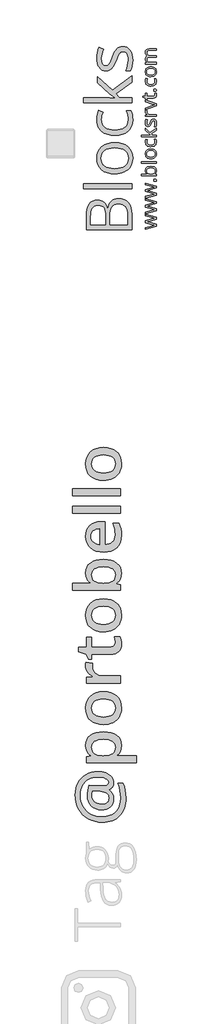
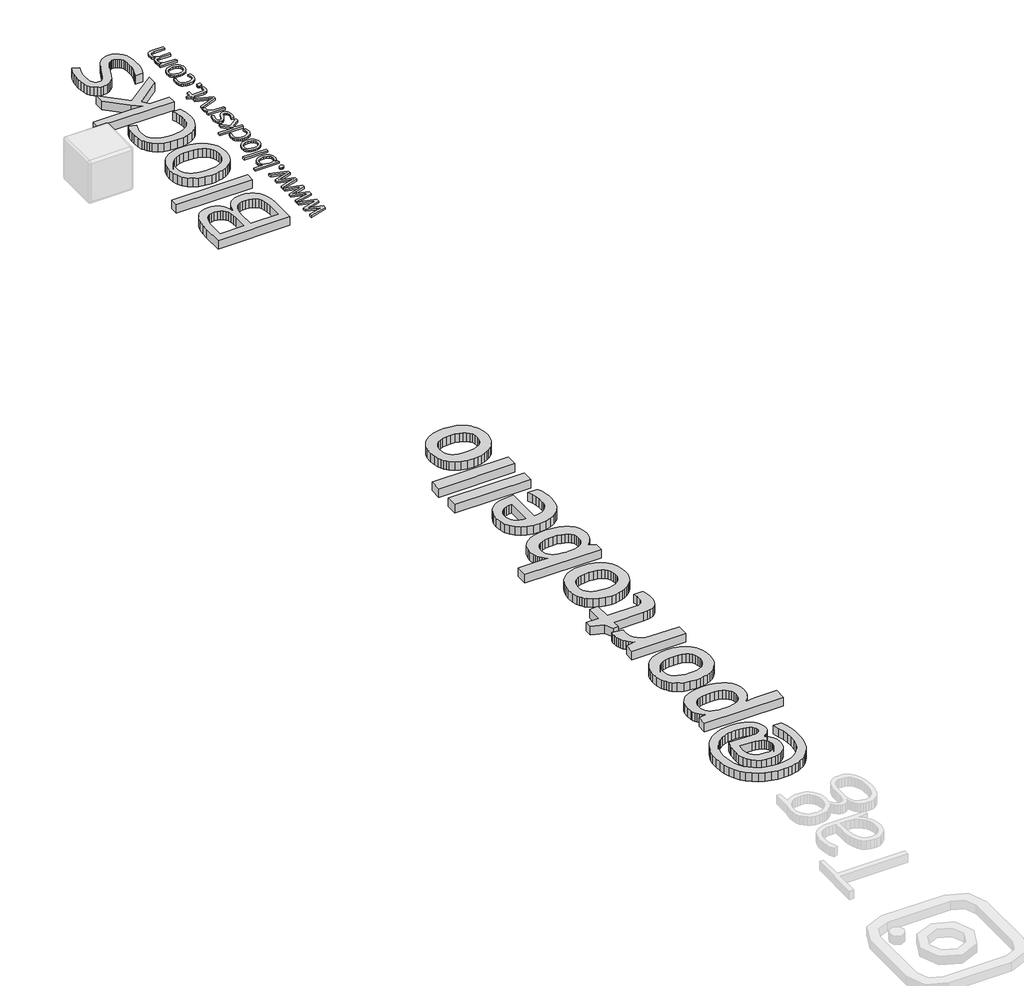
# One storey, part 6 of 6: 3 proxies.
"""IFC4 building model written with IfcOpenShell, lengths in millimetres."""

from ifc_helpers import new_model, si_unit, origin, origin_with_axes, place, context, project, spatial, polyline, outline, extrude, element, save

model = new_model("IFC4")

# Units and contexts
model_context = context("Model", 3, world=origin())
ifc_project = project(units=[si_unit("LENGTHUNIT", "METRE", prefix="MILLI")], contexts=[model_context])

# Site, building, storey
site = spatial("IfcSite", under=ifc_project)
building = spatial("IfcBuilding", under=site)
storey = spatial("IfcBuildingStorey", under=building, Name="PORTOBELLO - SHOWROOM", Elevation=0.0)

# Proxies
placement = place(None, origin())
element("IfcBuildingElementProxy", 1, Name="25mm OpenSans", ObjectType="25mm OpenSans", at=placement, inside=storey, context=model_context, shape_type="SweptSolid", body=[
    extrude(outline(polyline([(251598.8746158, 361.9602187), (251489.0629725, 327.4801123), (251443.339353, 315.2621615), (251489.4377562, 301.8449027), (251598.8746158, 266.3154017), (251598.8746158, 233.4093871), (251411.78256, 182.0640112), (251411.78256, 211.8967989), (251519.1206305, 239.6307976), (251568.8169578, 250.5744836), (251543.6314887, 257.9952021), (251519.1206305, 265.3409639), (251411.78256, 299.8210704), (251411.78256, 330.7032527), (251519.1955872, 364.3588348), (251568.5171308, 377.4013099), (251549.5530722, 382.4983691), (251411.78256, 418.2527403), (251411.78256, 447.785701), (251598.8746158, 395.7657144), (251598.8746158, 361.9602187)])), origin_with_axes(), (0.0, 0.0, 1.0), 20.0),
    extrude(outline(polyline([(251598.8746158, 635.4024541), (251489.0629725, 600.9223477), (251443.339353, 588.7043969), (251489.4377562, 575.2871381), (251598.8746158, 539.7576371), (251598.8746158, 506.8516225), (251411.78256, 455.5062466), (251411.78256, 485.3390344), (251519.1206305, 513.073033), (251568.8169578, 524.016719), (251543.6314887, 531.4374375), (251519.1206305, 538.7831994), (251411.78256, 573.2633058), (251411.78256, 604.1454881), (251519.1955872, 637.8010702), (251568.5171308, 650.8435453), (251549.5530722, 655.9406045), (251411.78256, 691.6949757), (251411.78256, 721.2279365), (251598.8746158, 669.2079498), (251598.8746158, 635.4024541)])), origin_with_axes(), (0.0, 0.0, 1.0), 20.0),
    extrude(outline(polyline([(251598.8746158, 908.8446896), (251489.0629725, 874.3645831), (251443.339353, 862.1466324), (251489.4377562, 848.7293735), (251598.8746158, 813.1998726), (251598.8746158, 780.2938579), (251411.78256, 728.948482), (251411.78256, 758.7812698), (251519.1206305, 786.5152684), (251568.8169578, 797.4589544), (251543.6314887, 804.879673), (251519.1206305, 812.2254348), (251411.78256, 846.7055412), (251411.78256, 877.5877235), (251519.1955872, 911.2433057), (251568.5171308, 924.2857807), (251549.5530722, 929.3828399), (251411.78256, 965.1372112), (251411.78256, 994.6701719), (251598.8746158, 942.6501852), (251598.8746158, 908.8446896)])), origin_with_axes(), (0.0, 0.0, 1.0), 20.0),
    extrude(outline(polyline([(251579.7606437, 1023.8283489), (251569.3510247, 1025.1307224), (251561.8085014, 1029.0378432), (251557.2267698, 1035.3810584), (251555.699526, 1043.9917155), (251557.2267698, 1052.8553515), (251561.8085014, 1059.5077634), (251569.3510247, 1063.6678632), (251579.7606437, 1065.0545631), (251589.9641318, 1063.6397544), (251597.4879159, 1059.3953282), (251602.125865, 1052.7148076), (251603.671848, 1043.9917155), (251598.0875699, 1029.5625405), (251590.7136993, 1025.2618968), (251579.7606437, 1023.8283489)])), origin_with_axes(), (0.0, 0.0, 1.0), 20.0),
    extrude(outline(polyline([(251406.9853278, 1212.1946695), (251408.585186, 1229.7790553), (251413.3847606, 1245.2787064), (251421.3840516, 1258.6936228), (251432.583059, 1270.0238045), (251446.7053797, 1279.0256421), (251463.4746109, 1285.4555261), (251504.9538041, 1290.5994333), (251546.5735413, 1285.4086781), (251563.4622347, 1278.9202342), (251577.7368114, 1269.8364126), (251589.0833899, 1258.4523558), (251597.1880889, 1245.0632057), (251602.0509082, 1229.6689626), (251603.671848, 1212.2696262), (251601.9572123, 1194.6266805), (251596.8133051, 1178.5765657), (251588.1089521, 1164.5690225), (251575.7129791, 1153.0537913), (251575.7129791, 1150.9550022), (251598.8746158, 1144.9584619), (251598.8746158, 1124.6451818), (251335.0268448, 1124.6451818), (251335.0268448, 1152.9788345), (251397.6157336, 1152.9788345), (251435.3939372, 1151.629613), (251422.9651706, 1164.1848691), (251414.0874801, 1177.7895198), (251408.7608659, 1193.7927866), (251406.9853278, 1212.1946695)]), holes=[polyline([(251430.9714888, 1208.2219616), (251435.2065453, 1182.9521662), (251447.911715, 1165.9088744), (251470.6423504, 1156.2113445), (251504.9538041, 1152.9788345), (251539.4058018, 1156.3050404), (251562.4081554, 1166.2836582), (251575.3663041, 1183.5892986), (251579.685687, 1208.8965723), (251574.8416068, 1231.9738827), (251560.3093663, 1248.2863461), (251536.7073587, 1257.983876), (251504.6539771, 1261.216386), (251472.2070726, 1257.983876), (251449.2234582, 1248.2863461), (251435.5344811, 1231.80523), (251430.9714888, 1208.2219616)])]), origin_with_axes(), (0.0, 0.0, 1.0), 20.0),
    extrude(outline(polyline([(251598.8746158, 1367.8798457), (251598.8746158, 1339.5461931), (251335.0268448, 1339.5461931), (251335.0268448, 1367.8798457), (251598.8746158, 1367.8798457)])), origin_with_axes(), (0.0, 0.0, 1.0), 20.0),
    extrude(outline(polyline([(251505.1786744, 1592.8250619), (251527.1058671, 1591.3844868), (251546.489215, 1587.0627615), (251563.328718, 1579.859886), (251577.6243763, 1569.7758603), (251589.0201452, 1557.1573594), (251597.1599801, 1542.3510582), (251602.043881, 1525.3569569), (251603.671848, 1506.1750553), (251600.6829475, 1482.4793517), (251591.7162459, 1461.6132655), (251577.1652662, 1444.3825819), (251557.4235313, 1431.5930859), (251533.1937609, 1423.6664093), (251505.1786744, 1421.0241837), (251483.2608513, 1422.4530468), (251463.9056122, 1426.7396361), (251447.1129571, 1433.8839517), (251432.882886, 1443.8859934), (251421.5527043, 1456.4271952), (251413.4597173, 1471.1889907), (251408.6039252, 1488.1713801), (251406.9853278, 1507.3743633), (251408.6414035, 1525.9706653), (251413.6096308, 1542.5571893), (251421.8900097, 1557.1339354), (251433.48254, 1569.7009035), (251447.900003, 1579.8177228), (251464.6551797, 1587.0440223), (251483.7480702, 1591.379802), (251505.1786744, 1592.8250619)]), holes=[polyline([(251504.9538041, 1450.4821877), (251537.1102512, 1454.0613726), (251560.5717149, 1464.7989275), (251574.907194, 1482.4699821), (251579.685687, 1506.849666), (251574.9259332, 1531.2480892), (251560.6466717, 1548.9753613), (251537.2039472, 1559.7691337), (251504.9538041, 1563.3670579), (251473.0315969, 1559.7691337), (251449.8231122, 1548.9753613), (251435.6843946, 1531.1543932), (251430.9714888, 1506.4748823), (251435.6188075, 1482.1420463), (251449.5607636, 1464.6115356), (251472.7036611, 1454.0145247), (251504.9538041, 1450.4821877)])]), origin_with_axes(), (0.0, 0.0, 1.0), 20.0),
    extrude(outline(polyline([(251603.671848, 1718.2277099), (251602.0860442, 1698.8841828), (251597.3286328, 1681.8549454), (251589.3996137, 1667.1399978), (251578.2989871, 1654.73934), (251564.298471, 1644.9012661), (251547.6697838, 1637.8740705), (251506.5278959, 1632.252314), (251484.0806908, 1633.6788347), (251464.3366135, 1637.9583969), (251447.2956642, 1645.0910004), (251432.9578427, 1655.0766454), (251421.5948674, 1667.6998311), (251413.4784565, 1682.7450569), (251408.60861, 1700.2123227), (251406.9853278, 1720.1016287), (251409.7587276, 1747.3484085), (251416.2799652, 1768.6736047), (251439.7414289, 1759.9036646), (251433.48254, 1739.1781224), (251430.9714888, 1719.3520612), (251435.6609706, 1694.1337985), (251449.7294163, 1676.1207538), (251473.1768256, 1665.312927), (251506.0031987, 1661.710318), (251537.4662958, 1665.2239158), (251560.6466717, 1675.7647092), (251574.9259332, 1693.2015239), (251579.685687, 1717.4031856), (251577.1558966, 1741.3706074), (251569.5665253, 1765.9002049), (251594.2272971, 1765.9002049), (251601.3107103, 1744.5000518), (251603.671848, 1718.2277099)])), origin_with_axes(), (0.0, 0.0, 1.0), 20.0),
    extrude(outline(polyline([(251505.0287609, 1837.4839041), (251477.1448487, 1860.3457138), (251411.78256, 1920.3111163), (251411.78256, 1953.6668715), (251491.5365453, 1878.4102913), (251598.8746158, 1958.9138442), (251598.8746158, 1924.8085215), (251512.5244362, 1859.2213625), (251530.5140569, 1838.2334716), (251598.8746158, 1838.2334716), (251598.8746158, 1810.199646), (251335.0268448, 1810.199646), (251335.0268448, 1838.2334716), (251476.0204974, 1838.2334716), (251505.0287609, 1837.4839041)])), origin_with_axes(), (0.0, 0.0, 1.0), 20.0),
    extrude(outline(polyline([(251548.4287209, 2119.1713824), (251571.9182935, 2114.2710846), (251589.3176298, 2099.5701914), (251600.0832934, 2076.0244013), (251603.671848, 2044.589413), (251600.7110562, 2011.2898754), (251591.828681, 1986.1981023), (251565.2939904, 1986.1981023), (251575.8254142, 2015.3562793), (251579.685687, 2045.3389805), (251577.9054641, 2065.1556721), (251572.5647954, 2079.7816086), (251563.5699851, 2088.8045278), (251550.827337, 2091.8121675), (251540.5395227, 2089.422921), (251531.8632785, 2082.2551815), (251513.2740037, 2045.0391535), (251496.0339505, 2007.6357337), (251479.3560729, 1991.1077696), (251456.9814821, 1985.673405), (251436.2559399, 1990.3582021), (251420.4025866, 2004.4125933), (251410.3396425, 2026.6372706), (251406.9853278, 2055.832926), (251410.096033, 2085.8718448), (251419.4281488, 2115.2736312), (251442.5897855, 2105.0795128), (251433.876063, 2078.0201249), (251430.9714888, 2053.6591801), (251432.5736894, 2035.8382121), (251437.3802912, 2023.0018681), (251445.0165104, 2015.2438442), (251455.1075633, 2012.6578362), (251468.11256, 2016.518109), (251478.3066784, 2028.9984084), (251492.3610696, 2062.0543365), (251504.6914555, 2090.1350101), (251517.0967981, 2107.3656937), (251531.1511893, 2116.2199602), (251548.4287209, 2119.1713824)])), origin_with_axes(), (0.0, 0.0, 1.0), 20.0),
    extrude(outline(polyline([(251406.9853278, 2251.6199652), (251408.8592466, 2274.2569046), (251433.5200184, 2270.2841967), (251430.9714888, 2249.5961328), (251435.6656554, 2228.261567), (251449.7481554, 2210.2813158), (251470.8391119, 2198.0539954), (251496.5586478, 2193.978222), (251598.8746158, 2193.978222), (251598.8746158, 2165.6445693), (251411.78256, 2165.6445693), (251411.78256, 2189.0310763), (251445.3631854, 2192.2542167), (251429.0413524, 2205.2404742), (251416.9545759, 2219.0137775), (251409.4776398, 2234.586043), (251406.9853278, 2251.6199652)])), origin_with_axes(), (0.0, 0.0, 1.0), 20.0),
    extrude(outline(polyline([(251598.8746158, 2351.2374901), (251411.78256, 2279.2790071), (251411.78256, 2310.0862326), (251522.7185546, 2350.937663), (251573.2394062, 2367.1283217), (251535.7610297, 2380.5455805), (251411.78256, 2425.9693729), (251411.78256, 2456.7765985), (251598.8746158, 2384.8181155), (251598.8746158, 2351.2374901)])), origin_with_axes(), (0.0, 0.0, 1.0), 20.0),
    extrude(outline(polyline([(251579.685687, 2548.1488805), (251578.5613357, 2562.8404042), (251576.2376764, 2574.0839171), (251598.4248753, 2574.0839171), (251602.1727129, 2560.3668313), (251603.671848, 2544.1012159), (251600.1114022, 2520.0963157), (251589.4300649, 2502.9499584), (251571.627836, 2492.662144), (251546.7047156, 2489.2328726), (251435.768721, 2489.2328726), (251435.768721, 2462.0985279), (251421.7518081, 2462.0985279), (251409.6088141, 2489.0829591), (251368.6074702, 2501.1509963), (251368.6074702, 2517.641482), (251411.78256, 2517.641482), (251411.78256, 2572.7346956), (251435.768721, 2572.7346956), (251435.768721, 2517.641482), (251544.9807103, 2517.641482), (251559.8127778, 2519.6746839), (251570.728355, 2525.7742897), (251577.446354, 2535.4343413), (251579.685687, 2548.1488805)])), origin_with_axes(), (0.0, 0.0, 1.0), 20.0),
    extrude(outline(polyline([(251579.7606437, 2606.914975), (251569.3510247, 2608.2173486), (251561.8085014, 2612.1244693), (251557.2267698, 2618.4676846), (251555.699526, 2627.0783416), (251557.2267698, 2635.9419776), (251561.8085014, 2642.5943895), (251569.3510247, 2646.7544893), (251579.7606437, 2648.1411892), (251589.9641318, 2646.7263805), (251597.4879159, 2642.4819544), (251602.125865, 2635.8014337), (251603.671848, 2627.0783416), (251598.0875699, 2612.6491666), (251590.7136993, 2608.3485229), (251579.7606437, 2606.914975)])), origin_with_axes(), (0.0, 0.0, 1.0), 20.0),
    extrude(outline(polyline([(251603.671848, 2783.2132584), (251602.0860442, 2763.8697313), (251597.3286328, 2746.8404939), (251589.3996137, 2732.1255463), (251578.2989871, 2719.7248885), (251564.298471, 2709.8868146), (251547.6697838, 2702.859619), (251506.5278959, 2697.2378625), (251484.0806908, 2698.6643832), (251464.3366135, 2702.9439453), (251447.2956642, 2710.0765489), (251432.9578427, 2720.0621938), (251421.5948674, 2732.6853796), (251413.4784565, 2747.7306053), (251408.60861, 2765.1978712), (251406.9853278, 2785.0871772), (251409.7587276, 2812.3339569), (251416.2799652, 2833.6591532), (251439.7414289, 2824.8892131), (251433.48254, 2804.1636709), (251430.9714888, 2784.3376097), (251435.6609706, 2759.119347), (251449.7294163, 2741.1063023), (251473.1768256, 2730.2984754), (251506.0031987, 2726.6958665), (251537.4662958, 2730.2094643), (251560.6466717, 2740.7502577), (251574.9259332, 2758.1870724), (251579.685687, 2782.3887341), (251577.1558966, 2806.3561559), (251569.5665253, 2830.8857533), (251594.2272971, 2830.8857533), (251601.3107103, 2809.4856003), (251603.671848, 2783.2132584)])), origin_with_axes(), (0.0, 0.0, 1.0), 20.0),
    extrude(outline(polyline([(251505.1786744, 3036.7919542), (251527.1058671, 3035.3513791), (251546.489215, 3031.0296538), (251563.328718, 3023.8267783), (251577.6243763, 3013.7427526), (251589.0201452, 3001.1242517), (251597.1599801, 2986.3179506), (251602.043881, 2969.3238492), (251603.671848, 2950.1419476), (251600.6829475, 2926.446244), (251591.7162459, 2905.5801578), (251577.1652662, 2888.3494742), (251557.4235313, 2875.5599782), (251533.1937609, 2867.6333016), (251505.1786744, 2864.991076), (251483.2608513, 2866.4199391), (251463.9056122, 2870.7065284), (251447.1129571, 2877.850844), (251432.882886, 2887.8528857), (251421.5527043, 2900.3940875), (251413.4597173, 2915.1558831), (251408.6039252, 2932.1382724), (251406.9853278, 2951.3412556), (251408.6414035, 2969.9375576), (251413.6096308, 2986.5240816), (251421.8900097, 3001.1008277), (251433.48254, 3013.6677959), (251447.900003, 3023.7846151), (251464.6551797, 3031.0109146), (251483.7480702, 3035.3466943), (251505.1786744, 3036.7919542)]), holes=[polyline([(251504.9538041, 2894.44908), (251537.1102512, 2898.028265), (251560.5717149, 2908.7658199), (251574.907194, 2926.4368744), (251579.685687, 2950.8165584), (251574.9259332, 2975.2149815), (251560.6466717, 2992.9422536), (251537.2039472, 3003.7360261), (251504.9538041, 3007.3339502), (251473.0315969, 3003.7360261), (251449.8231122, 2992.9422536), (251435.6843946, 2975.1212856), (251430.9714888, 2950.4417746), (251435.6188075, 2926.1089386), (251449.5607636, 2908.578428), (251472.7036611, 2897.981417), (251504.9538041, 2894.44908)])]), origin_with_axes(), (0.0, 0.0, 1.0), 20.0),
    extrude(outline(polyline([(251598.8746158, 3325.8251943), (251476.0954542, 3325.8251943), (251456.3537193, 3323.4265782), (251442.2524801, 3316.2307299), (251433.7917366, 3303.9753007), (251430.9714888, 3286.3979421), (251434.8036528, 3263.3300014), (251446.3001448, 3247.1955602), (251465.7607918, 3237.6947918), (251493.4854209, 3234.527869), (251598.8746158, 3234.527869), (251598.8746158, 3206.1192595), (251476.0954542, 3206.1192595), (251456.3537193, 3203.7206434), (251442.2524801, 3196.5247951), (251433.7917366, 3184.2318876), (251430.9714888, 3166.5420939), (251435.0004143, 3143.361718), (251447.0871907, 3127.339712), (251468.3374302, 3118.0075962), (251499.8567449, 3114.896891), (251598.8746158, 3114.896891), (251598.8746158, 3086.5632383), (251411.78256, 3086.5632383), (251411.78256, 3109.6499182), (251435.768721, 3114.2222802), (251423.6913141, 3125.3065101), (251414.5934382, 3138.3208763), (251408.8873554, 3153.8462938), (251406.9853278, 3171.1144558), (251408.9529425, 3191.2122352), (251414.8557869, 3207.5059595), (251424.6938607, 3219.9956284), (251438.4671641, 3228.6812422), (251425.4434282, 3240.3089085), (251415.4554409, 3254.3539302), (251409.1028561, 3271.3972219), (251406.9853278, 3290.6704771), (251411.08921, 3318.5262804), (251423.4008567, 3338.3804504), (251444.7447922, 3350.2704654), (251475.9455407, 3354.2338037), (251598.8746158, 3354.2338037), (251598.8746158, 3325.8251943)])), origin_with_axes(), (0.0, 0.0, 1.0), 20.0),
])
element("IfcBuildingElementProxy", 2, Name="80mm OpenSans", ObjectType="80mm OpenSans", at=placement, inside=storey, context=model_context, shape_type="SweptSolid", body=[
    extrude(outline(polyline([(250369.4912088, 171.1060646), (250369.4912088, 396.0891852), (250372.428188, 469.9192831), (250381.2391255, 532.7676328), (250395.9240213, 584.6342343), (250416.4828755, 625.5190876), (250443.3813983, 656.4888194), (250477.0853, 678.6100563), (250517.5945805, 691.8827985), (250564.9092398, 696.3070459), (250598.5680727, 693.835777), (250629.117163, 686.4219702), (250656.5565106, 674.0656256), (250680.8861156, 656.7667432), (250701.6703134, 634.7356437), (250718.4734398, 608.1826479), (250731.2954946, 577.1077557), (250740.136478, 541.5109672), (250745.4245428, 541.5109672), (250755.3396643, 584.044585), (250769.3410177, 620.9070538), (250787.428603, 652.0983735), (250809.6024201, 677.6185442), (250835.8624692, 697.4675658), (250866.2087502, 711.6454384), (250900.641263, 720.152162), (250939.1600077, 722.9877365), (250990.3956469, 718.4733516), (251035.6972362, 704.930197), (251075.0647754, 682.3582727), (251108.4982646, 650.7575787), (251135.1564209, 611.0595354), (251154.197961, 564.1955634), (251165.6228851, 510.1656627), (251169.4311931, 448.9698332), (251169.4311931, 171.1060646), (250369.4912088, 171.1060646)]), holes=[polyline([(250707.927356, 264.1279318), (250707.927356, 416.0396115), (250705.9969119, 461.5214757), (250700.2055796, 500.1378693), (250690.553359, 531.8887925), (250677.0402503, 556.7742452), (250658.9601764, 575.5453729), (250635.6070607, 588.9533213), (250606.9809031, 596.9980903), (250573.0817036, 599.67968), (250541.8791167, 596.6901207), (250515.3336323, 587.7214426), (250493.4452505, 572.7736458), (250476.2139711, 551.8467302), (250463.1740841, 524.4148941), (250453.859879, 489.9523354), (250448.271356, 448.4590542), (250446.408515, 399.9350505), (250446.408515, 264.1279318), (250707.927356, 264.1279318)]), polyline([(250784.8446622, 264.1279318), (251092.5138869, 264.1279318), (251092.5138869, 429.7405067), (251090.1027097, 474.846798), (251082.8691778, 514.0190394), (251070.8132915, 547.2572308), (251053.9350506, 574.5613722), (251031.9339969, 595.8563491), (251004.5096722, 611.0670468), (250971.6620765, 620.1934655), (250933.3912098, 623.235605), (250897.6967724, 620.1258624), (250867.0500332, 610.7966344), (250841.4509922, 595.2479212), (250820.8996495, 573.4797226), (250805.1255925, 545.3718554), (250793.858409, 510.8041364), (250787.0980989, 469.7765655), (250784.8446622, 422.2891426), (250784.8446622, 264.1279318)])]), origin_with_axes(), (0.0, 0.0, 1.0), 100.0),
    extrude(outline(polyline([(251169.4311931, 984.7469441), (251169.4311931, 893.8883762), (250323.3408251, 893.8883762), (250323.3408251, 984.7469441), (251169.4311931, 984.7469441)])), origin_with_axes(), (0.0, 0.0, 1.0), 100.0),
    extrude(outline(polyline([(250868.9729658, 1706.0870562), (250939.2877025, 1701.4675109), (251001.4449983, 1687.6088752), (251055.4448532, 1664.511149), (251101.2872672, 1632.1743323), (251137.8304991, 1591.7101205), (251163.9328076, 1544.2302092), (251179.5941927, 1489.7345982), (251184.8146544, 1428.2232876), (251182.4185, 1389.0961149), (251175.2300369, 1352.2374019), (251163.2492651, 1317.6471485), (251146.4761846, 1285.3253547), (251125.2262764, 1255.9180057), (251099.8150219, 1230.0710867), (251070.2424208, 1207.7845977), (251036.5084734, 1189.0585387), (250999.1765386, 1174.2309252), (250958.8099758, 1163.6397726), (250915.4087849, 1157.2850811), (250868.9729658, 1155.1668506), (250798.688275, 1159.7488386), (250736.6211167, 1173.4948025), (250682.7714909, 1196.4047423), (250637.1393977, 1228.4786581), (250600.8064865, 1268.6949918), (250574.8544072, 1316.0321855), (250559.2831595, 1370.4902392), (250554.0927436, 1432.0691529), (250559.4033428, 1491.7025996), (250575.3351403, 1544.8912173), (250601.8881362, 1591.635006), (250639.0623303, 1631.9339657), (250685.29534, 1664.3759428), (250739.0247825, 1687.5487836), (250800.2506578, 1701.452488), (250868.9729658, 1706.0870562)]), holes=[polyline([(250868.2518661, 1249.6309173), (250923.2958133, 1252.5002934), (250971.3691297, 1261.1084216), (251012.4718152, 1275.4553019), (251046.6038698, 1295.5409344), (251073.4197666, 1321.1850441), (251092.5739786, 1352.2073561), (251104.0665058, 1388.6078703), (251107.8973482, 1430.3865868), (251104.0815287, 1472.1803262), (251092.6340702, 1508.6259092), (251073.5549728, 1539.7233357), (251046.8442364, 1565.4726058), (251012.7872963, 1585.6633987), (250971.6695879, 1600.0853936), (250923.4911112, 1608.7385905), (250868.2518661, 1611.6229895), (250813.5759802, 1608.7385905), (250765.8857481, 1600.0853936), (250725.1811697, 1585.6633987), (250691.4622452, 1565.4726058), (250665.0144097, 1539.6482212), (250646.1230987, 1508.325451), (250634.788312, 1471.5042952), (250631.0100498, 1429.1847539), (250634.7357318, 1387.4435947), (250645.9127779, 1351.1557523), (250664.541188, 1320.3212267), (250690.6209621, 1294.940018), (250724.0769857, 1275.1172864), (250764.8341443, 1260.9581925), (250812.8924377, 1252.4627361), (250868.2518661, 1249.6309173)])]), origin_with_axes(), (0.0, 0.0, 1.0), 100.0),
    extrude(outline(polyline([(251184.8146544, 2108.2203476), (251179.7293989, 2046.1907466), (251164.4736324, 1991.5824638), (251139.0473549, 1944.3954992), (251103.4505664, 1904.6298528), (251058.5545958, 1873.0817389), (251005.2307719, 1850.5473719), (250943.4790948, 1837.0267516), (250873.2995643, 1832.5198782), (250801.3172845, 1837.0943547), (250738.0032246, 1850.8177843), (250683.3573845, 1873.6901668), (250637.3797642, 1905.7115024), (250617.8593688, 1924.9802641), (250600.9416927, 1946.1907371), (250586.6267361, 1969.3429213), (250574.9144988, 1994.4368169), (250559.2981824, 2050.4497419), (250554.0927436, 2114.2295121), (250556.3161345, 2157.9461842), (250562.9863072, 2201.6027646), (250572.6610621, 2240.5121051), (250583.8981998, 2269.9870572), (250659.1329399, 2241.8641671), (250639.0623303, 2175.4028072), (250633.02312, 2141.541165), (250631.0100498, 2111.8258463), (250634.7695334, 2068.5035257), (250646.0479841, 2030.9575144), (250664.845402, 1999.1878126), (250691.1617869, 1973.1944202), (250724.9971391, 1952.9773373), (250766.3514583, 1938.5365637), (250815.2247447, 1929.8720996), (250871.6169982, 1926.9839449), (250925.383998, 1929.8007408), (250972.510871, 1938.2511284), (251012.9976171, 1952.3351078), (251046.8442364, 1972.052679), (251073.5549728, 1997.2986815), (251092.6340702, 2027.9679551), (251104.0815287, 2064.0604996), (251107.8973482, 2105.5763152), (251105.8692551, 2143.7795788), (251099.784976, 2182.4335297), (251089.6445109, 2221.538168), (251075.4478596, 2261.0934936), (251154.5284651, 2261.0934936), (251167.7786729, 2228.7341426), (251177.243107, 2192.4688345), (251182.9217675, 2152.2975695), (251184.8146544, 2108.2203476)])), origin_with_axes(), (0.0, 0.0, 1.0), 100.0),
    extrude(outline(polyline([(250868.4922327, 2492.8068785), (250779.0758642, 2563.9553867), (250569.4762049, 2756.2486522), (250569.4762049, 2863.2117811), (250825.2262479, 2621.883733), (251169.4311931, 2880.0374419), (251169.4311931, 2770.6706471), (250892.5288909, 2560.349888), (250950.2168705, 2493.0472451), (251169.4311931, 2493.0472451), (251169.4311931, 2403.1501435), (250323.3408251, 2403.1501435), (250323.3408251, 2493.0472451), (250775.4703655, 2493.0472451), (250868.4922327, 2488.48028), (250868.4922327, 2492.8068785)])), origin_with_axes(), (0.0, 0.0, 1.0), 100.0),
    extrude(outline(polyline([(251007.6644836, 3393.9411938), (251047.7681454, 3390.0127025), (251082.9893611, 3378.2272285), (251113.3281306, 3358.5847719), (251138.7844539, 3331.0853327), (251158.9226666, 3296.4950792), (251173.3071043, 3255.5801801), (251181.9377668, 3208.3406354), (251184.8146544, 3154.7764449), (251182.4410344, 3098.0950003), (251175.3201744, 3047.9935909), (251163.4520744, 3004.4722167), (251146.8367344, 2967.5308776), (251061.7469645, 2967.5308776), (251080.8861535, 3012.6597034), (251095.5184692, 3061.033478), (251104.8026284, 3110.0682607), (251107.8973482, 3157.1801107), (251106.4701716, 3191.0342415), (251102.1886419, 3220.7270258), (251095.052759, 3246.2584636), (251085.0625229, 3267.6285551), (251072.1428191, 3284.506796), (251056.2185331, 3296.5626823), (251037.2896648, 3303.7962142), (251015.3562142, 3306.2073914), (250998.2150723, 3304.2919702), (250982.3659008, 3298.5457066), (250967.8086997, 3288.9686006), (250954.543469, 3275.5606523), (250927.0214954, 3230.4017807), (250894.9325567, 3156.2186444), (250865.2472838, 3084.0485782), (250839.6482429, 3036.27572), (250814.4998892, 3005.2383852), (250786.1666784, 2983.2748887), (250753.2665025, 2970.2049559), (250714.4172537, 2965.8483116), (250679.2335953, 2969.6040394), (250647.9558939, 2980.8712229), (250620.5841493, 2999.6498621), (250597.1183618, 3025.939957), (250578.2946539, 3058.7800413), (250564.8491482, 3097.2086485), (250556.7818448, 3141.2257788), (250554.0927436, 3190.8314322), (250556.5865469, 3239.2502755), (250564.0679568, 3287.1583398), (250576.5369732, 3334.5556252), (250593.9935962, 3381.4421315), (250668.26687, 3348.7522764), (250651.9670112, 3304.2844588), (250640.3242549, 3261.9799404), (250633.3386011, 3221.8387212), (250631.0100498, 3183.8608013), (250636.1478855, 3126.7136465), (250642.5701801, 3104.1342107), (250651.5613926, 3085.5508693), (250662.8210646, 3071.0387369), (250676.0487381, 3060.6729281), (250691.2444129, 3054.4534428), (250708.4080892, 3052.380281), (250731.0926853, 3055.4750008), (250750.1116911, 3064.75916), (250766.8772602, 3080.9538584), (250782.8015463, 3104.7801959), (250801.820552, 3145.10169), (250827.8702804, 3210.7818584), (250847.6103859, 3260.1546566), (250867.4105831, 3300.8291892), (250887.2708719, 3332.805456), (250907.1912524, 3356.0834572), (250928.433649, 3372.6462169), (250952.2599864, 3384.4767596), (250978.6702646, 3391.5750853), (251007.6644836, 3393.9411938)])), origin_with_axes(), (0.0, 0.0, 1.0), 100.0),
])
element("IfcBuildingElementProxy", 3, Name="80mm OpenSans Bold", ObjectType="80mm OpenSans Bold", at=placement, inside=storey, context=model_context, shape_type="SweptSolid", body=[
    extrude(outline(polyline([(250569.251253, -9349.9050274), (250607.3568677, -9351.4523873), (250643.7949392, -9356.0944669), (250678.5654675, -9363.8312662), (250711.6684527, -9374.6627853), (250742.1499399, -9388.3035888), (250769.0559741, -9404.4682415), (250792.3865555, -9423.1567432), (250812.1416839, -9444.369094), (250827.8631607, -9467.7146983), (250839.0927869, -9492.8029603), (250845.8305627, -9519.63388), (250848.0764879, -9548.2074574), (250842.3677816, -9588.8294097), (250835.2318987, -9606.9770867), (250825.2416627, -9623.6825641), (250812.817715, -9638.3599485), (250798.3806971, -9650.4233463), (250781.9306092, -9659.8727576), (250763.4674511, -9666.7081822), (250763.4674511, -9673.4384465), (250800.4839047, -9703.6044526), (250826.9242287, -9740.2603563), (250842.7884231, -9782.6249663), (250848.0764879, -9829.9170913), (250844.5235694, -9872.5821596), (250833.8648138, -9910.4398962), (250816.1002211, -9943.4903012), (250791.2297913, -9971.7333746), (250760.2901054, -9994.3428562), (250724.3177441, -10010.4924859), (250683.3127075, -10020.1822637), (250637.2749957, -10023.4121897), (250584.1314467, -10019.1306599), (250536.2308938, -10006.2860707), (250493.573337, -9984.878422), (250456.1587763, -9954.9077139), (250425.7148464, -9917.7260082), (250403.9691822, -9874.6853672), (250390.9217837, -9825.7857907), (250386.5726508, -9771.0272788), (250388.405446, -9726.7096902), (250393.9038316, -9677.8852283), (250402.647166, -9629.6616828), (250414.2148077, -9587.1468437), (250665.3978857, -9599.4055393), (250678.1373146, -9599.4055393), (250715.9950512, -9595.8000406), (250743.0362917, -9584.9835444), (250752.5007258, -9576.8711723), (250759.2610359, -9566.9560508), (250764.669284, -9541.7175597), (250761.206503, -9520.9634076), (250750.8181598, -9502.4476694), (250733.5042544, -9486.1703449), (250709.2647869, -9472.1314342), (250679.6621401, -9460.8266934), (250646.2586967, -9452.7518786), (250609.0544567, -9447.9069897), (250568.0494201, -9446.2920267), (250522.9581516, -9448.7107154), (250480.7062134, -9455.9667816), (250441.2936055, -9468.0602253), (250404.7203277, -9484.9910464), (250371.5797853, -9506.3836722), (250342.465383, -9531.8625298), (250317.3771211, -9561.4276194), (250296.3149993, -9595.0789409), (250279.6470792, -9632.0803715), (250267.7414219, -9671.6957888), (250260.5980276, -9713.9251927), (250258.2168961, -9758.7685831), (250261.2064555, -9815.7429744), (250270.1751336, -9868.8865234), (250285.1229304, -9918.1992299), (250306.0498459, -9963.6810941), (250332.5277272, -10004.6711078), (250364.1284212, -10040.5082628), (250400.8519281, -10071.1925593), (250442.6982477, -10096.7239971), (250488.8861887, -10116.8096296), (250538.6345596, -10131.15651), (250591.9433606, -10139.7646382), (250648.8125916, -10142.6340143), (250722.9882164, -10137.2783464), (250788.0749799, -10121.2113427), (250817.2100387, -10109.1610899), (250844.072882, -10094.4330032), (250868.6635101, -10077.0270825), (250890.9819228, -10056.9433278), (250910.8403337, -10034.3582585), (250928.0509566, -10009.4483936), (250942.6137913, -9982.2137331), (250954.5288379, -9952.6542772), (250970.4155666, -9886.5609786), (250975.7111429, -9811.1684979), (250972.6164231, -9749.454378), (250963.3322639, -9686.418242), (250947.8586652, -9622.0600897), (250926.195627, -9556.3799212), (251016.3330952, -9556.3799212), (251036.9445296, -9615.6002378), (251051.6669827, -9677.4044951), (251060.5004546, -9741.7926932), (251063.4449452, -9808.7648321), (251061.7492341, -9858.3798747), (251056.6621008, -9905.1893887), (251048.1835452, -9949.1933739), (251036.3135673, -9990.3918305), (251021.0521672, -10028.7847584), (251002.3993449, -10064.3721575), (250980.3551004, -10097.154028), (250954.9194335, -10127.1303697), (250926.4491386, -10153.9180986), (250895.3010098, -10177.1341302), (250861.475047, -10196.7784647), (250824.9712502, -10212.851102), (250785.7896195, -10225.3520421), (250743.9301549, -10234.281285), (250699.3928563, -10239.6388308), (250652.1777237, -10241.4246794), (250583.1098887, -10237.5637912), (250517.9630336, -10225.9811265), (250456.7371583, -10206.6766854), (250399.4322629, -10179.6504679), (250347.3328063, -10145.7738027), (250301.7232474, -10105.9180189), (250262.6035862, -10060.0831163), (250229.9738227, -10008.269095), (250204.2621099, -9951.6477421), (250185.8966008, -9891.3908446), (250174.8772953, -9827.4984026), (250171.2041935, -9759.970416), (250174.2688674, -9701.749123), (250183.4628892, -9646.7878018), (250198.7862588, -9595.0864523), (250220.2389762, -9546.6450746), (250247.3553312, -9502.4626923), (250279.6696135, -9463.5383289), (250317.1818232, -9429.8719846), (250359.8919602, -9401.4636592), (250406.9587415, -9378.9067578), (250457.5408841, -9362.7946853), (250511.6383879, -9353.1274419), (250569.251253, -9349.9050274)]), holes=[polyline([(250639.1979283, -9918.1316268), (250668.6052773, -9916.542954), (250694.0916464, -9911.7769353), (250715.6570357, -9903.8335709), (250733.3014451, -9892.7128608), (250747.0248746, -9878.4148049), (250756.8273243, -9860.9394033), (250762.7087941, -9840.2866559), (250764.669284, -9816.4565627), (250762.2055266, -9791.1730029), (250754.8142542, -9768.9240712), (250742.4954669, -9749.7097675), (250725.2491646, -9733.530092), (250703.0753474, -9720.3850445), (250675.9740153, -9710.2746252), (250643.9451683, -9703.1988339), (250606.9888063, -9699.1576708), (250478.3926851, -9692.4274065), (250471.5422375, -9728.7227604), (250469.258755, -9767.42178), (250472.1206196, -9801.0355442), (250480.7062134, -9830.7283285), (250495.0155365, -9856.500133), (250515.0485888, -9878.3509575), (250539.9791102, -9895.7550004), (250568.9808406, -9908.1864595), (250602.05378, -9915.645335), (250639.1979283, -9918.1316268)])]), origin_with_axes(), (0.0, 0.0, 1.0), 100.0),
    extrude(outline(polyline([(250986.5276391, -8891.2855893), (250981.3297117, -8944.8422683), (250965.7359297, -8992.0592787), (250939.7462931, -9032.9366205), (250903.3608017, -9067.4742937), (250903.3608017, -9075.1660244), (250997.3441352, -9067.4742937), (251248.0464801, -9067.4742937), (251248.0464801, -9196.3107816), (250371.1891896, -9196.3107816), (250371.1891896, -9091.9916851), (250448.3468623, -9073.9641914), (250448.3468623, -9067.4742937), (250426.6575341, -9051.6439009), (250407.8601162, -9033.9581785), (250391.9546088, -9014.4171265), (250378.9410118, -8993.020745), (250368.8193253, -8969.769034), (250361.5895492, -8944.6619933), (250355.8057283, -8888.8819234), (250360.9660984, -8836.07639), (250376.4472086, -8789.4302502), (250402.2490588, -8748.9435041), (250438.3716492, -8714.6161516), (250483.8084446, -8687.2744529), (250537.55291, -8667.7446682), (250599.6050454, -8656.0267973), (250669.9648508, -8652.1208403), (250740.4974196, -8656.0944004), (250802.8274789, -8668.0150806), (250856.9550285, -8687.8828808), (250902.8800686, -8715.6978012), (250939.4758807, -8750.5133983), (250965.6157464, -8791.3832287), (250981.2996659, -8838.3072923), (250986.5276391, -8891.2855893)]), holes=[polyline([(250463.489957, -8922.7736115), (250466.2842185, -8957.859621), (250474.6670031, -8987.8829093), (250488.6383106, -9012.8434766), (250508.1981412, -9032.7413227), (250533.8873196, -9047.9369975), (250566.2466707, -9058.791051), (250605.2761945, -9065.303483), (250650.9758908, -9067.4742937), (250669.9648508, -9067.4742937), (250721.3131618, -9065.3260174), (250765.0298339, -9058.8811884), (250801.114867, -9048.1398068), (250829.5682611, -9033.1018725), (250851.1261389, -9013.1814921), (250866.5246231, -8987.7927719), (250875.7637136, -8956.9357119), (250878.8434104, -8920.6103122), (250875.4332095, -8889.6856492), (250865.2026069, -8862.5317369), (250848.1516025, -8839.1485754), (250824.2801963, -8819.5361646), (250794.1141903, -8804.0250086), (250758.1793863, -8792.9456115), (250716.4757844, -8786.2979732), (250669.0033845, -8784.0820938), (250621.373244, -8786.2829503), (250579.9175201, -8792.8855198), (250544.6362127, -8803.8898024), (250515.529322, -8819.295798), (250492.7620998, -8838.9683004), (250476.4997982, -8862.7721035), (250466.7424173, -8890.7072072), (250463.489957, -8922.7736115)])]), origin_with_axes(), (0.0, 0.0, 1.0), 100.0),
    extrude(outline(polyline([(250669.9648508, -7944.0008903), (250740.4974196, -7948.8082219), (250802.8274789, -7963.2302168), (250856.9550285, -7987.266875), (250902.8800686, -8020.9181964), (250922.4849679, -8041.0902107), (250939.4758807, -8063.1476003), (250953.8528068, -8087.0903653), (250965.6157464, -8112.9185056), (250981.2996659, -8170.2309125), (250986.5276391, -8235.0848209), (250984.1164618, -8276.7358426), (250976.88293, -8315.8780382), (250964.8270436, -8352.5114075), (250947.9488027, -8386.6359507), (250926.5711998, -8417.6131939), (250901.0172276, -8444.8046635), (250871.286886, -8468.2103594), (250837.380175, -8487.8302817), (250799.9205455, -8503.3414376), (250759.5314483, -8514.4208348), (250716.2128834, -8521.068473), (250669.9648508, -8523.2843525), (250599.9956411, -8518.5145781), (250538.1538265, -8504.205255), (250484.4394069, -8480.3563833), (250438.8523824, -8446.9679627), (250419.3883228, -8426.9104982), (250402.5194712, -8404.8962995), (250388.2458276, -8380.9253665), (250376.5673918, -8354.9976994), (250360.9961442, -8297.2721625), (250355.8057283, -8231.7196887), (250361.123839, -8168.8262703), (250377.0781708, -8112.8283682), (250403.6687239, -8063.7259824), (250440.8954983, -8021.5191129), (250487.1209966, -7987.6048905), (250540.7077214, -7963.3804459), (250601.6556728, -7948.8457792), (250669.9648508, -7944.0008903)]), holes=[polyline([(250669.9648508, -8390.6019993), (250718.9207632, -8388.1382418), (250761.3492206, -8380.7469694), (250797.2502231, -8368.4281821), (250826.6237705, -8351.1818799), (250849.469863, -8329.0080627), (250865.7885004, -8301.9067306), (250875.5796829, -8269.8778836), (250878.8434104, -8232.9215216), (250875.5796829, -8196.3031752), (250865.7885004, -8164.5672749), (250849.469863, -8137.7138209), (250826.6237705, -8115.742813), (250797.2502231, -8098.6542513), (250761.3492206, -8086.4481358), (250718.9207632, -8079.1244665), (250669.9648508, -8076.6832434), (250621.5722976, -8079.1394894), (250579.6320848, -8086.5082275), (250544.1442124, -8098.7894575), (250515.1086804, -8115.9831796), (250492.5254889, -8138.0893936), (250476.3946379, -8165.1080997), (250466.7161272, -8197.0392978), (250463.489957, -8233.882988), (250466.8250433, -8272.2740379), (250476.8303023, -8305.0014503), (250493.5057339, -8332.0652252), (250516.8513382, -8353.4653624), (250546.4314506, -8369.7126411), (250581.8104069, -8381.3178401), (250622.988207, -8388.2809595), (250669.9648508, -8390.6019993)])]), origin_with_axes(), (0.0, 0.0, 1.0), 100.0),
    extrude(outline(polyline([(250355.8057283, -7493.3135493), (250357.1878362, -7458.6406699), (250361.3341597, -7430.5778715), (250481.5174506, -7442.8365671), (250476.4697524, -7470.2383575), (250474.7871863, -7498.6016141), (250477.9269748, -7534.6566014), (250487.3463402, -7567.10609), (250503.0452826, -7595.9500798), (250525.0238019, -7621.1885709), (250552.0199737, -7641.6948449), (250582.7718732, -7656.3421835), (250617.2795006, -7665.1305866), (250655.5428559, -7668.0600543), (250971.1441778, -7668.0600543), (250971.1441778, -7796.8965422), (250371.1891896, -7796.8965422), (250371.1891896, -7695.9425778), (250473.3449869, -7678.8765505), (250473.3449869, -7672.3866528), (250447.7008772, -7656.5900615), (250424.851029, -7638.5250106), (250404.7954423, -7618.1915), (250387.5341171, -7595.5895299), (250373.652947, -7571.3951311), (250363.7378255, -7546.2843348), (250357.7887526, -7520.2571409), (250355.8057283, -7493.3135493)])), origin_with_axes(), (0.0, 0.0, 1.0), 100.0),
    extrude(outline(polyline([(250878.8434104, -7074.3545972), (250875.17782, -7026.4615558), (250864.1810489, -6978.4483311), (250963.9331804, -6978.4483311), (250972.7666522, -7003.206089), (250980.0377413, -7034.213378), (250984.9051646, -7068.9463491), (250986.5276391, -7104.8811531), (250983.493011, -7148.2598097), (250974.3891267, -7185.8546453), (250959.2159862, -7217.6656602), (250937.9735895, -7243.6928541), (250910.6619367, -7263.9362272), (250877.2810276, -7278.3957794), (250837.8308624, -7287.0715107), (250792.3114409, -7289.9634211), (250463.489957, -7289.9634211), (250463.489957, -7373.6109916), (250409.4074761, -7373.6109916), (250364.6992919, -7283.9542566), (250232.7380384, -7239.9671721), (250232.7380384, -7160.4058335), (250371.1891896, -7160.4058335), (250371.1891896, -6984.6978622), (250463.489957, -6984.6978622), (250463.489957, -7160.4058335), (250787.9848425, -7160.4058335), (250809.670415, -7158.9260767), (250828.3363824, -7154.4868064), (250843.9827446, -7147.0880226), (250856.6095016, -7136.7297252), (250866.3368367, -7123.9527391), (250873.2849332, -7109.297889), (250878.8434104, -7074.3545972)])), origin_with_axes(), (0.0, 0.0, 1.0), 100.0),
    extrude(outline(polyline([(250669.9648508, -6313.3539991), (250740.4974196, -6318.1613308), (250802.8274789, -6332.5833257), (250856.9550285, -6356.6199839), (250902.8800686, -6390.2713053), (250922.4849679, -6410.4433195), (250939.4758807, -6432.5007092), (250953.8528068, -6456.4434741), (250965.6157464, -6482.2716145), (250981.2996659, -6539.5840214), (250986.5276391, -6604.4379297), (250984.1164618, -6646.0889515), (250976.88293, -6685.231147), (250964.8270436, -6721.8645164), (250947.9488027, -6755.9890596), (250926.5711998, -6786.9663028), (250901.0172276, -6814.1577724), (250871.286886, -6837.5634683), (250837.380175, -6857.1833905), (250799.9205455, -6872.6945465), (250759.5314483, -6883.7739436), (250716.2128834, -6890.4215819), (250669.9648508, -6892.6374613), (250599.9956411, -6887.867687), (250538.1538265, -6873.5583639), (250484.4394069, -6849.7094921), (250438.8523824, -6816.3210716), (250419.3883228, -6796.2636071), (250402.5194712, -6774.2494083), (250388.2458276, -6750.2784754), (250376.5673918, -6724.3508082), (250360.9961442, -6666.6252713), (250355.8057283, -6601.0727976), (250361.123839, -6538.1793792), (250377.0781708, -6482.181477), (250403.6687239, -6433.0790912), (250440.8954983, -6390.8722218), (250487.1209966, -6356.9579994), (250540.7077214, -6332.7335548), (250601.6556728, -6318.198888), (250669.9648508, -6313.3539991)]), holes=[polyline([(250669.9648508, -6759.9551082), (250718.9207632, -6757.4913507), (250761.3492206, -6750.1000783), (250797.2502231, -6737.781291), (250826.6237705, -6720.5349887), (250849.469863, -6698.3611716), (250865.7885004, -6671.2598395), (250875.5796829, -6639.2309924), (250878.8434104, -6602.2746305), (250875.5796829, -6565.656284), (250865.7885004, -6533.9203838), (250849.469863, -6507.0669297), (250826.6237705, -6485.0959218), (250797.2502231, -6468.0073602), (250761.3492206, -6455.8012447), (250718.9207632, -6448.4775754), (250669.9648508, -6446.0363523), (250621.5722976, -6448.4925983), (250579.6320848, -6455.8613363), (250544.1442124, -6468.1425664), (250515.1086804, -6485.3362884), (250492.5254889, -6507.4425025), (250476.3946379, -6534.4612086), (250466.7161272, -6566.3924067), (250463.489957, -6603.2360968), (250466.8250433, -6641.6271468), (250476.8303023, -6674.3545592), (250493.5057339, -6701.418334), (250516.8513382, -6722.8184713), (250546.4314506, -6739.0657499), (250581.8104069, -6750.6709489), (250622.988207, -6757.6340684), (250669.9648508, -6759.9551082)])]), origin_with_axes(), (0.0, 0.0, 1.0), 100.0),
    extrude(outline(polyline([(250355.8057283, -5858.3400597), (250360.9660984, -5805.5345263), (250376.4472086, -5758.8883865), (250402.2490588, -5718.4016404), (250438.3716492, -5684.0742879), (250483.8084446, -5656.7325892), (250537.55291, -5637.2028044), (250599.6050454, -5625.4849336), (250669.9648508, -5621.5789766), (250740.6927175, -5625.5300023), (250803.1279371, -5637.3830794), (250857.2705097, -5657.1382078), (250903.1204352, -5684.7953876), (250939.6110869, -5719.48329), (250965.6758381, -5760.330586), (250981.3146888, -5807.3372756), (250986.5276391, -5860.503359), (250981.3297117, -5914.1651984), (250965.7359297, -5961.4573233), (250939.7462931, -6002.3797339), (250903.3608017, -6036.93243), (250903.3608017, -6045.585627), (250971.1441778, -6069.141552), (250971.1441778, -6165.7689179), (250125.0538098, -6165.7689179), (250125.0538098, -6036.93243), (250325.0388059, -6036.93243), (250391.0194326, -6039.0957293), (250446.6642963, -6042.2204948), (250446.6642963, -6036.93243), (250425.3693194, -6020.8917164), (250406.9136728, -6003.0557649), (250391.2973564, -5983.4245755), (250378.5203703, -5961.9981481), (250368.5827145, -5938.7764829), (250361.4843888, -5913.7595797), (250355.8057283, -5858.3400597)]), holes=[polyline([(250463.489957, -5892.2317478), (250466.3367987, -5927.775956), (250474.8773238, -5957.9720079), (250489.1115323, -5982.8199033), (250509.0394243, -6002.3196422), (250535.6374888, -6017.102187), (250569.8822153, -6027.7984999), (250611.7736036, -6034.4085809), (250661.3116538, -6036.93243), (250669.9648508, -6036.93243), (250721.3131618, -6034.7841537), (250765.0298339, -6028.3393247), (250801.114867, -6017.5979431), (250829.5682611, -6002.5600088), (250851.1261389, -5982.6396284), (250866.5246231, -5957.2509081), (250875.7637136, -5926.3938482), (250878.8434104, -5890.0684485), (250875.4707668, -5858.5578919), (250865.352836, -5831.0884985), (250848.489618, -5807.6602682), (250824.8811128, -5788.2732011), (250794.9028932, -5773.0775263), (250758.9305319, -5762.2234728), (250716.964029, -5755.7110407), (250669.0033845, -5753.54023), (250620.8361749, -5755.707285), (250579.0912599, -5762.2084499), (250543.7686396, -5773.0437247), (250514.8683139, -5788.2131095), (250492.3902827, -5807.7166042), (250476.3345462, -5831.5542088), (250466.7011043, -5859.7259233), (250463.489957, -5892.2317478)])]), origin_with_axes(), (0.0, 0.0, 1.0), 100.0),
    extrude(outline(polyline([(250986.5276391, -5192.7649946), (250981.3522461, -5259.5793929), (250965.8260672, -5318.6870377), (250954.181433, -5345.3508275), (250939.9491024, -5370.0879289), (250923.1290752, -5392.898342), (250903.7213516, -5413.7820666), (250858.4047395, -5448.6427324), (250805.2611905, -5473.543208), (250744.2907048, -5488.4834934), (250675.4932822, -5493.4635885), (250604.9607133, -5488.8440433), (250542.3902875, -5474.9854075), (250487.7820047, -5451.8876813), (250441.1358649, -5419.5508646), (250403.8039301, -5379.1317216), (250377.1382625, -5331.7870164), (250361.1388619, -5277.5167491), (250355.8057283, -5216.3209197), (250360.2975788, -5159.6019178), (250373.7731303, -5109.14747), (250396.2323828, -5064.9575762), (250427.6753363, -5027.0322365), (250466.9902953, -4996.5883066), (250513.0655645, -4974.8426424), (250565.9011438, -4961.7952439), (250625.4970331, -4957.446111), (250694.2418756, -4957.446111), (250694.2418756, -5360.7812353), (250736.1407753, -5356.8151867), (250772.9018395, -5347.5610733), (250804.5250679, -5333.0188951), (250831.0104606, -5313.1886521), (250851.9373761, -5288.4308942), (250866.885173, -5259.1061712), (250875.853851, -5225.2144832), (250878.8434104, -5186.7558301), (250876.3195613, -5134.9868775), (250868.748014, -5086.8835153), (250855.2874854, -5038.9003364), (250835.0966925, -4987.4919338), (250943.0212877, -4987.4919338), (250963.3322639, -5034.8741962), (250976.6726092, -5082.7972834), (250984.0638816, -5134.3859611), (250986.5276391, -5192.7649946)]), holes=[polyline([(250448.1064958, -5216.5612862), (250450.5627418, -5245.5780395), (250457.9314798, -5271.5751877), (250470.2127098, -5294.5527306), (250487.4064319, -5314.5106683), (250509.3023252, -5331.1034739), (250535.690069, -5343.9856204), (250566.5696633, -5353.1571078), (250601.9411081, -5358.6179361), (250601.9411081, -5084.1192996), (250566.3743655, -5086.8309351), (250535.3896108, -5093.7640087), (250508.9868441, -5104.9185204), (250487.1660653, -5120.2944702), (250470.0775036, -5139.4261478), (250457.8713881, -5161.847843), (250450.5477189, -5187.5595558), (250448.1064958, -5216.5612862)])]), origin_with_axes(), (0.0, 0.0, 1.0), 100.0),
    extrude(outline(polyline([(250971.1441778, -4683.6685743), (250971.1441778, -4812.5050622), (250125.0538098, -4812.5050622), (250125.0538098, -4683.6685743), (250971.1441778, -4683.6685743)])), origin_with_axes(), (0.0, 0.0, 1.0), 100.0),
    extrude(outline(polyline([(250971.1441778, -4375.9993496), (250971.1441778, -4504.8358374), (250125.0538098, -4504.8358374), (250125.0538098, -4375.9993496), (250971.1441778, -4375.9993496)])), origin_with_axes(), (0.0, 0.0, 1.0), 100.0),
    extrude(outline(polyline([(250669.9648508, -3652.0152051), (250740.4974196, -3656.8225367), (250802.8274789, -3671.2445316), (250856.9550285, -3695.2811898), (250902.8800686, -3728.9325113), (250922.4849679, -3749.1045255), (250939.4758807, -3771.1619151), (250953.8528068, -3795.1046801), (250965.6157464, -3820.9328205), (250981.2996659, -3878.2452273), (250986.5276391, -3943.0991357), (250984.1164618, -3984.7501575), (250976.88293, -4023.892353), (250964.8270436, -4060.5257224), (250947.9488027, -4094.6502655), (250926.5711998, -4125.6275088), (250901.0172276, -4152.8189783), (250871.286886, -4176.2246743), (250837.380175, -4195.8445965), (250799.9205455, -4211.3557525), (250759.5314483, -4222.4351496), (250716.2128834, -4229.0827879), (250669.9648508, -4231.2986673), (250599.9956411, -4226.528893), (250538.1538265, -4212.2195699), (250484.4394069, -4188.3706981), (250438.8523824, -4154.9822776), (250419.3883228, -4134.924813), (250402.5194712, -4112.9106143), (250388.2458276, -4088.9396814), (250376.5673918, -4063.0120142), (250360.9961442, -4005.2864773), (250355.8057283, -3939.7340036), (250361.123839, -3876.8405851), (250377.0781708, -3820.842683), (250403.6687239, -3771.7402972), (250440.8954983, -3729.5334277), (250487.1209966, -3695.6192053), (250540.7077214, -3671.3947608), (250601.6556728, -3656.860094), (250669.9648508, -3652.0152051)]), holes=[polyline([(250669.9648508, -4098.6163141), (250718.9207632, -4096.1525567), (250761.3492206, -4088.7612843), (250797.2502231, -4076.442497), (250826.6237705, -4059.1961947), (250849.469863, -4037.0223775), (250865.7885004, -4009.9210454), (250875.5796829, -3977.8921984), (250878.8434104, -3940.9358365), (250875.5796829, -3904.31749), (250865.7885004, -3872.5815898), (250849.469863, -3845.7281357), (250826.6237705, -3823.7571278), (250797.2502231, -3806.6685661), (250761.3492206, -3794.4624507), (250718.9207632, -3787.1387814), (250669.9648508, -3784.6975583), (250621.5722976, -3787.1538043), (250579.6320848, -3794.5225423), (250544.1442124, -3806.8037723), (250515.1086804, -3823.9974944), (250492.5254889, -3846.1037085), (250476.3946379, -3873.1224146), (250466.7161272, -3905.0536127), (250463.489957, -3941.8973028), (250466.8250433, -3980.2883528), (250476.8303023, -4013.0157652), (250493.5057339, -4040.07954), (250516.8513382, -4061.4796772), (250546.4314506, -4077.7269559), (250581.8104069, -4089.3321549), (250622.988207, -4096.2952743), (250669.9648508, -4098.6163141)])]), origin_with_axes(), (0.0, 0.0, 1.0), 100.0),
])

save(model, "model.ifc")
